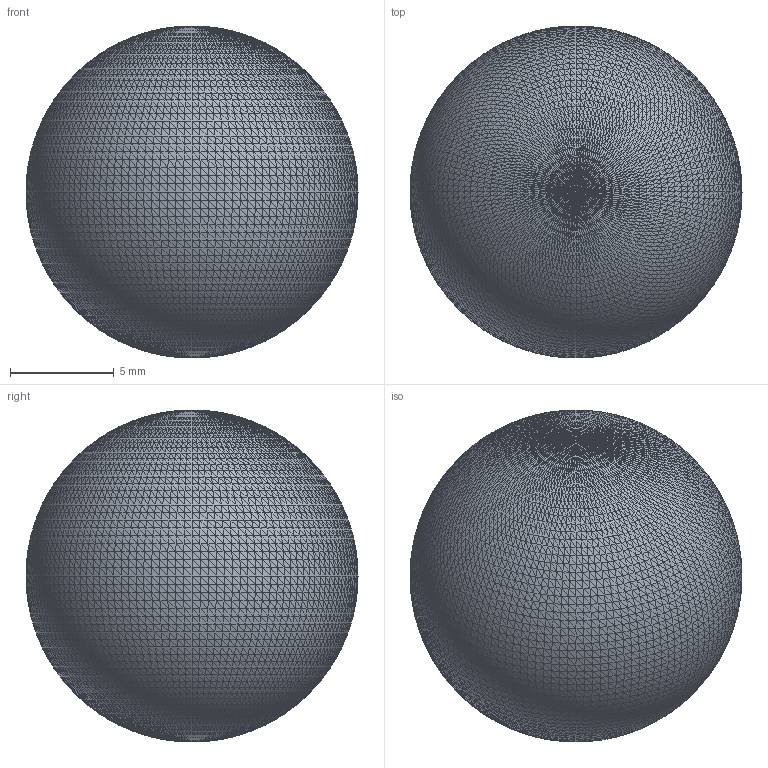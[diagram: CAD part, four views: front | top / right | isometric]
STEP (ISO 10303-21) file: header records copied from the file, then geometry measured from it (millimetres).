
FILE_DESCRIPTION((''),'2;1');
FILE_NAME('MR marble', '2026-10-19T03:58:23', (''), (''), 'ImageToStl.com STEP Converter','', '');
FILE_SCHEMA(('AUTOMOTIVE_DESIGN_CC2'));
Length unit declared in the file: millimetre
Products named in the file (1): product0
Bounding box: 16 x 16 x 16 mm (x, y, z)
Surface area: 803.8 mm2 (no closed solid volume)
Topology: 0 solids, 16128 shells, 16128 faces, 48384 edges, 8066 vertices
Faces by surface type: plane 16128
Entity records: 370975 total; most frequent: DIRECTION 80642, ORIENTED_EDGE 48384, EDGE_CURVE 48384, LINE 48384, VECTOR 48384, AXIS2_PLACEMENT_3D 16129, FACE_SURFACE 16128, PLANE 16128
